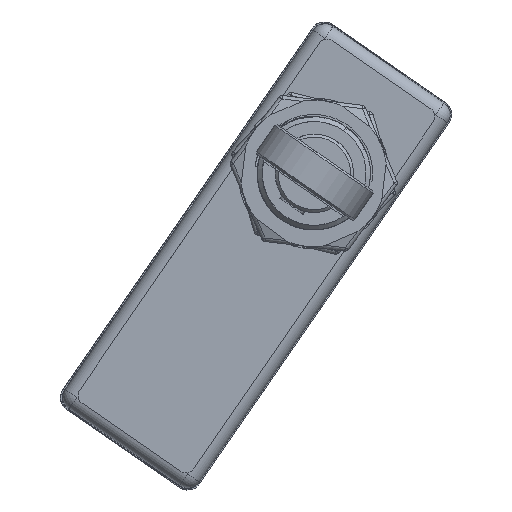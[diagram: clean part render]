
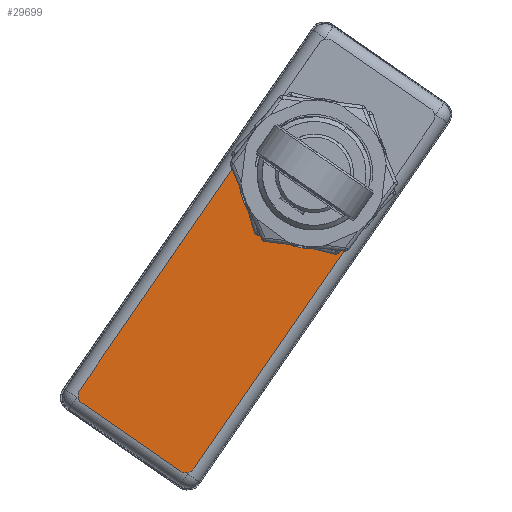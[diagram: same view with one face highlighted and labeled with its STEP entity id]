
A CAD part, front view. The second image highlights one B-rep face of the part: STEP entity #29699.
In plain terms, the highlighted planar face has unit normal (0.003, -1, 0).
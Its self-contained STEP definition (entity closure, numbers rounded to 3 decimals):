
#8588=CARTESIAN_POINT('',(21.924,0.465,
-30.766));
#8589=DIRECTION('',(-0.003,1.,0.));
#8590=DIRECTION('',(0.823,0.002,-0.568));
#8591=AXIS2_PLACEMENT_3D('',#8588,#8589,#8590);
#8593=CARTESIAN_POINT('',(11.472,0.434,
-23.551));
#8594=DIRECTION('',(-0.003,1.,0.));
#8595=DIRECTION('',(-0.568,-0.002,-0.823));
#8596=AXIS2_PLACEMENT_3D('',#8593,#8594,#8595);
#8598=DIRECTION('',(0.568,0.002,0.823));
#8599=VECTOR('',#8598,29.841);
#8600=CARTESIAN_POINT('',(10.649,0.432,
-22.983));
#8601=LINE('',#8600,#8599);
#8602=CARTESIAN_POINT('',(35.444,0.504,0.));
#8603=DIRECTION('',(0.003,-1.,0.));
#8604=DIRECTION('',(-0.98,-0.003,0.197));
#8605=AXIS2_PLACEMENT_3D('',#8602,#8603,#8604);
#8607=CARTESIAN_POINT('',(35.444,0.504,0.));
#8608=DIRECTION('',(0.003,-1.,0.));
#8609=DIRECTION('',(-0.568,-0.002,-0.823));
#8610=AXIS2_PLACEMENT_3D('',#8607,#8608,#8609);
#8612=DIRECTION('',(-0.568,-0.002,-0.823));
#8613=VECTOR('',#8612,29.841);
#8614=CARTESIAN_POINT('',(39.698,0.517,
-6.775));
#8615=LINE('',#8614,#8613);
#8616=DIRECTION('',(0.823,0.002,-0.568));
#8617=VECTOR('',#8616,12.7);
#8618=CARTESIAN_POINT('',(10.904,0.433,
-24.374));
#8619=LINE('',#8618,#8617);
#16018=CARTESIAN_POINT('',(30.899,0.491,
-6.584));
#16019=VERTEX_POINT('',#16018);
#16020=CARTESIAN_POINT('',(27.6,0.481,
1.576));
#16021=VERTEX_POINT('',#16020);
#16034=CARTESIAN_POINT('',(39.698,0.517,
-6.775));
#16035=VERTEX_POINT('',#16034);
#16143=CARTESIAN_POINT('',(10.649,0.432,
-22.983));
#16144=VERTEX_POINT('',#16143);
#16145=CARTESIAN_POINT('',(10.904,0.433,
-24.374));
#16146=VERTEX_POINT('',#16145);
#16147=CARTESIAN_POINT('',(22.747,0.467,
-31.334));
#16148=CARTESIAN_POINT('',(21.356,0.463,
-31.589));
#16149=VERTEX_POINT('',#16147);
#16150=VERTEX_POINT('',#16148);
#29684=CARTESIAN_POINT('',(24.889,0.473,
-15.291));
#29685=DIRECTION('',(-0.003,1.,0.));
#29686=DIRECTION('',(0.823,0.002,-0.568));
#29687=AXIS2_PLACEMENT_3D('',#29684,#29685,#29686);
#29688=PLANE('',#29687);
#29689=ORIENTED_EDGE('',*,*,#29592,.T.);
#29691=ORIENTED_EDGE('',*,*,#29690,.F.);
#29692=ORIENTED_EDGE('',*,*,#29663,.T.);
#29693=ORIENTED_EDGE('',*,*,#29679,.T.);
#29694=ORIENTED_EDGE('',*,*,#19088,.T.);
#29695=ORIENTED_EDGE('',*,*,#29488,.T.);
#29696=ORIENTED_EDGE('',*,*,#29574,.T.);
#29697=EDGE_LOOP('',(#29689,#29691,#29692,#29693,#29694,#29695,#29696));
#29698=FACE_OUTER_BOUND('',#29697,.F.);
#29699=ADVANCED_FACE('',(#29698),#29688,.F.);
#8592=CIRCLE('',#8591,1.);
#8597=CIRCLE('',#8596,1.);
#8606=CIRCLE('',#8605,8.);
#8611=CIRCLE('',#8610,8.);
#19088=EDGE_CURVE('',#16021,#16019,#8606,.T.);
#29488=EDGE_CURVE('',#16019,#16035,#8611,.T.);
#29574=EDGE_CURVE('',#16035,#16149,#8615,.T.);
#29592=EDGE_CURVE('',#16149,#16150,#8592,.T.);
#29663=EDGE_CURVE('',#16146,#16144,#8597,.T.);
#29679=EDGE_CURVE('',#16144,#16021,#8601,.T.);
#29690=EDGE_CURVE('',#16146,#16150,#8619,.T.);
